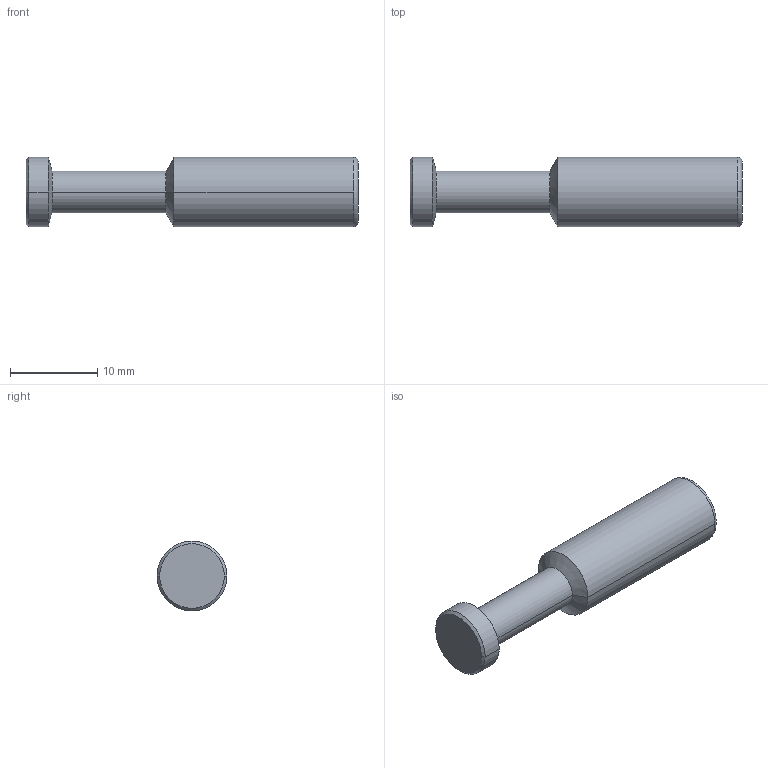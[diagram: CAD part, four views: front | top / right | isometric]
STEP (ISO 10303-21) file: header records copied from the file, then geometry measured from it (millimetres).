
FILE_DESCRIPTION (( 'STEP AP203' ), '1' );
FILE_NAME ('FP08-00.STEP', '2020-05-13T10:49:24', ( '' ), ( '' ), 'SwSTEP 2.0', 'SolidWorks 2019', '' );
FILE_SCHEMA (( 'CONFIG_CONTROL_DESIGN' ));
Length unit declared in the file: millimetre
Products named in the file (1): FP08-00
Bounding box: 38 x 8 x 8 mm (x, y, z)
Volume: 1465.9 mm3; surface area: 951.3 mm2
Topology: 1 solids, 1 shells, 16 faces, 32 edges, 18 vertices
Faces by surface type: cylinder 6, cone 6, torus 2, plane 2
Entity records: 493 total; most frequent: DIRECTION 86, CARTESIAN_POINT 67, ORIENTED_EDGE 64, AXIS2_PLACEMENT_3D 37, EDGE_CURVE 32, CIRCLE 20, VERTEX_POINT 18, FACE_OUTER_BOUND 16
